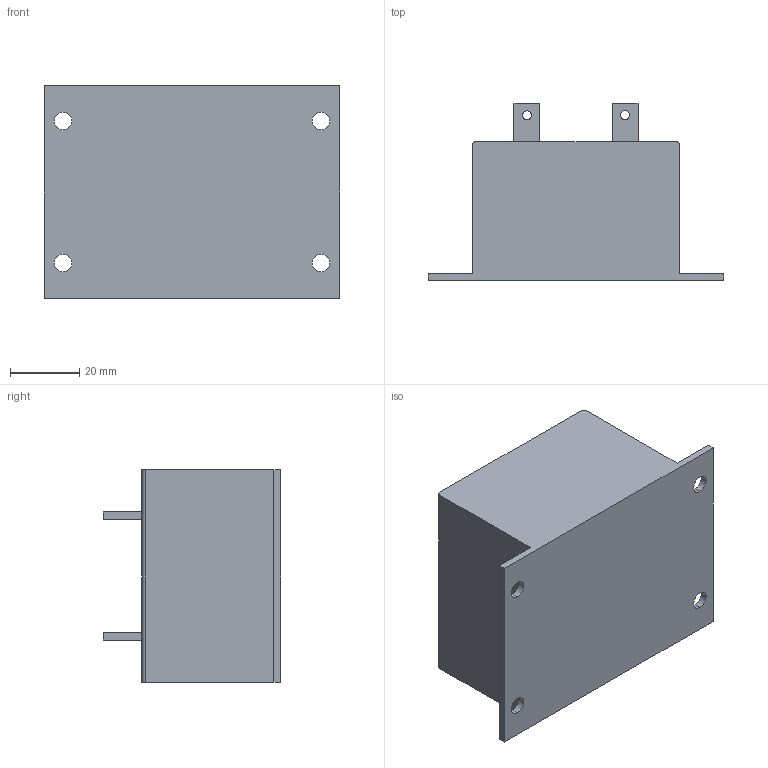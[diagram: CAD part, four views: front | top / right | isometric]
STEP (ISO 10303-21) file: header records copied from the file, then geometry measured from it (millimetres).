
FILE_DESCRIPTION (( 'STEP AP214' ), '1' );
FILE_NAME ('EES55242-140M-200A.STEP', '2020-08-08T19:05:06', ( '' ), ( '' ), 'SwSTEP 2.0', 'SolidWorks 2015', '' );
FILE_SCHEMA (( 'AUTOMOTIVE_DESIGN' ));
Length unit declared in the file: millimetre
Products named in the file (1): EES55242-140M-200A
Bounding box: 85.5 x 51.4 x 61.5 mm (x, y, z)
Volume: 151411.7 mm3; surface area: 20745.9 mm2
Topology: 1 solids, 1 shells, 34 faces, 90 edges, 60 vertices
Faces by surface type: plane 20, cylinder 14
Entity records: 1494 total; most frequent: DIRECTION 188, CARTESIAN_POINT 185, ORIENTED_EDGE 180, EDGE_CURVE 90, AXIS2_PLACEMENT_3D 63, LINE 62, VECTOR 62, VERTEX_POINT 60
